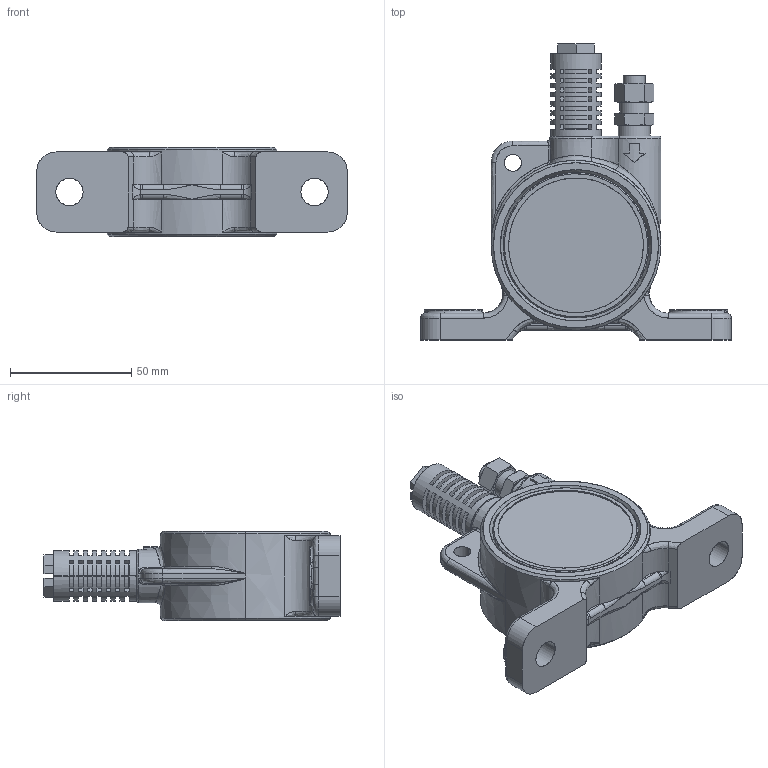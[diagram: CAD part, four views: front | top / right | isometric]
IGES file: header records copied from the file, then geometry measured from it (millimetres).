
Start section: SolidWorks IGES file using analytic representation for surfaces
Global section: file name: V:\WORK\08133\HP 寸法図\ball\UH19A\test_A97000E-000 UH19A_defeature.IGS,15; native system: HSolidWorks 2018; preprocessor: SolidWorks 2018; author: n-udagawa; date: 230112.114924; units: millimetre
Bounding box: 128 x 122 x 37 mm (x, y, z)
Surface area: 34409.5 mm2 (no closed solid volume)
Topology: 0 solids, 0 shells, 362 faces, 6237 edges, 7232 vertices
Faces by surface type: bspline 259, revolution 103
